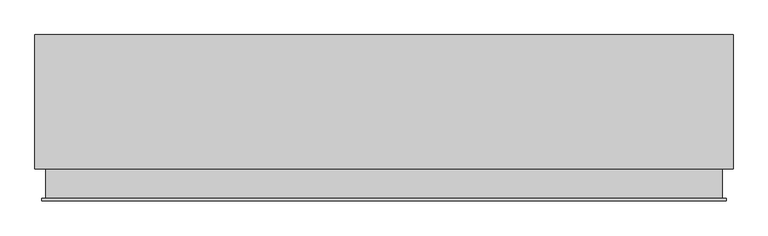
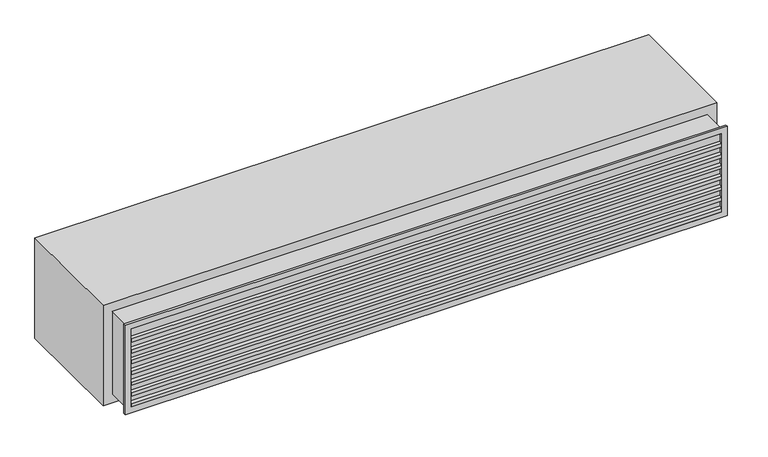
"""IFC4 building model written with IfcOpenShell, lengths in millimetres: air terminal geometry, 020_外気取入ガラリ : 外気取入ガラリ."""

import ifcopenshell
import ifcopenshell.guid

model = None  # the IFC model being written
_history = None  # IfcOwnerHistory: only IFC2X3 demands one
_inside = {}  # id of a spatial element -> (the spatial element, [elements in it])
_under = {}  # id of a project, library or spatial element -> (it, [spatial elements below it])
_declared = {}  # id of a project -> (the project, [libraries it declares])
_typed = {}  # id of a type object -> (the type object, [elements of that type])
_made_of = {}  # id of a material, layer set ... -> (it, [elements and type objects made of it])


def new_model(schema):
    """Start an empty IFC model of exactly this schema.

    Asked for "IFC4X3", IfcOpenShell would pick the latest addendum, in which some entities
    have other attributes; the version numbers below select the first issue.
    IFC2X3 requires an IfcOwnerHistory on every rooted entity: one is made here for all.
    """
    global model, _history
    if schema == "IFC4X3":
        model = ifcopenshell.file(schema_version=(4, 3, 0, 0))
    else:
        model = ifcopenshell.file(schema=schema)
    _inside.clear()
    _under.clear()
    _declared.clear()
    _typed.clear()
    _made_of.clear()
    _history = None
    if model.schema == "IFC2X3":
        org = make("IfcOrganization", Name="unknown")
        user = make(
            "IfcPersonAndOrganization",
            ThePerson=make("IfcPerson", FamilyName="unknown"),
            TheOrganization=org,
        )
        app = make(
            "IfcApplication",
            ApplicationDeveloper=org,
            Version="unknown",
            ApplicationFullName="unknown",
            ApplicationIdentifier="unknown",
        )
        _history = make(
            "IfcOwnerHistory",
            OwningUser=user,
            OwningApplication=app,
            ChangeAction="ADDED",
            CreationDate=0,
        )
    return model


def make(cls, **values):
    """One entity of the class cls with the attributes given. An attribute that is None is left unset."""
    return model.create_entity(
        cls, **{name: value for name, value in values.items() if value is not None}
    )


def rooted(cls, **values):
    """An entity with a GlobalId (a new one), such as an element, a storey or a relation."""
    return make(cls, GlobalId=ifcopenshell.guid.new(), OwnerHistory=_history, **values)


def si_unit(unit_type, name, prefix=None):
    """IfcSIUnit, for example si_unit("LENGTHUNIT", "METRE", prefix="MILLI")."""
    return make("IfcSIUnit", UnitType=unit_type, Prefix=prefix, Name=name)


def assignment(units):
    """IfcUnitAssignment: the units of a project."""
    return None if units is None else make("IfcUnitAssignment", Units=units)


def point(xyz):
    """IfcCartesianPoint."""
    return None if xyz is None else make("IfcCartesianPoint", Coordinates=xyz)


def direction(xyz):
    """IfcDirection."""
    return None if xyz is None else make("IfcDirection", DirectionRatios=xyz)


def frame(location, z_axis=None, x_axis=None):
    """IfcAxis2Placement3D, a coordinate frame: its origin and axes. An axis left out is left unset."""
    return make(
        "IfcAxis2Placement3D",
        Location=point(location),
        Axis=direction(z_axis),
        RefDirection=direction(x_axis),
    )


def origin():
    """The frame at (0, 0, 0) with its axes left unset."""
    return frame((0.0, 0.0, 0.0))


def place(relative_to, where):
    """IfcLocalPlacement: puts the frame where relative to a parent placement (None: the world)."""
    return make(
        "IfcLocalPlacement", PlacementRelTo=relative_to, RelativePlacement=where
    )


def context(
    kind, dimensions, precision=None, world=None, true_north=None, identifier=None
):
    """IfcGeometricRepresentationContext, for example the 3D "Model" context."""
    return make(
        "IfcGeometricRepresentationContext",
        ContextIdentifier=identifier,
        ContextType=kind,
        CoordinateSpaceDimension=dimensions,
        Precision=precision,
        WorldCoordinateSystem=world,
        TrueNorth=true_north,
    )


def project(units=None, contexts=None):
    """IfcProject with its units and contexts."""
    return rooted(
        "IfcProject",
        Name="project",
        RepresentationContexts=contexts,
        UnitsInContext=assignment(units),
    )


def spatial(cls, under=None, at=None, **own):
    """A site, building, storey or space (cls), placed at a placement, below another one or the project."""
    s = rooted(cls, ObjectPlacement=at, **own)
    if under is not None:
        _under.setdefault(under.id(), (under, []))[1].append(s)
    return s


def polyline(points):
    """IfcPolyline through the points."""
    return make("IfcPolyline", Points=[point(p) for p in points])


def outline(outer, holes=None, kind="AREA"):
    """IfcArbitraryClosedProfileDef: a profile drawn as a closed curve; with holes, ...WithVoids."""
    if holes is None:
        return make("IfcArbitraryClosedProfileDef", ProfileType=kind, OuterCurve=outer)
    return make(
        "IfcArbitraryProfileDefWithVoids",
        ProfileType=kind,
        OuterCurve=outer,
        InnerCurves=holes,
    )


def extrude(swept, where, along, depth):
    """IfcExtrudedAreaSolid: the profile swept, set in the frame where, extruded along a direction by depth."""
    return make(
        "IfcExtrudedAreaSolid",
        SweptArea=swept,
        Position=where,
        ExtrudedDirection=direction(along),
        Depth=depth,
    )


def faces_of(points, faces, orient=None, outer=None):
    """IfcFace entities. A face is a list of loops; a loop is a list of indices into points, from 0.

    orient and outer hold one flag for each loop. By default every Orientation is true, the
    first loop of a face is its IfcFaceOuterBound and the others are IfcFaceBound.
    """
    made = []
    for i, loops in enumerate(faces):
        bounds = []
        for j, loop in enumerate(loops):
            is_outer = j == 0 if outer is None else outer[i][j]
            bounds.append(
                make(
                    "IfcFaceOuterBound" if is_outer else "IfcFaceBound",
                    Bound=make("IfcPolyLoop", Polygon=[points[k] for k in loop]),
                    Orientation=True if orient is None else orient[i][j],
                )
            )
        made.append(make("IfcFace", Bounds=bounds))
    return made


def faceted_brep(points, faces, orient=None, outer=None, voids=None):
    """IfcFacetedBrep: a solid bounded by flat faces; with voids (closed shells), ...WithVoids."""
    shared = [point(p) for p in points]
    hull = make("IfcClosedShell", CfsFaces=faces_of(shared, faces, orient, outer))
    if voids is None:
        return make("IfcFacetedBrep", Outer=hull)
    return make(
        "IfcFacetedBrepWithVoids",
        Outer=hull,
        Voids=[
            make(cls, CfsFaces=faces_of(shared, fs, o, b)) for cls, fs, o, b in voids
        ],
    )


def shape(context_of_items, identifier, shape_type, items):
    """IfcShapeRepresentation: the items that make up one representation, for example the "Body"."""
    return make(
        "IfcShapeRepresentation",
        ContextOfItems=context_of_items,
        RepresentationIdentifier=identifier,
        RepresentationType=shape_type,
        Items=items,
    )


def source(mapping_origin, context_of_items, identifier, shape_type, items):
    """IfcRepresentationMap: a shape defined once, which mapped items show again and again."""
    return make(
        "IfcRepresentationMap",
        MappingOrigin=mapping_origin,
        MappedRepresentation=shape(context_of_items, identifier, shape_type, items),
    )


def transform(
    local_origin,
    x_axis=None,
    y_axis=None,
    z_axis=None,
    scale=None,
    scale2=None,
    scale3=None,
    uniform=True,
):
    """IfcCartesianTransformationOperator3D, or its non-uniform kind. x_axis, y_axis, z_axis: its Axis1, 2, 3."""
    if uniform:
        return make(
            "IfcCartesianTransformationOperator3D",
            Axis1=direction(x_axis),
            Axis2=direction(y_axis),
            LocalOrigin=point(local_origin),
            Scale=scale,
            Axis3=direction(z_axis),
        )
    return make(
        "IfcCartesianTransformationOperator3DnonUniform",
        Axis1=direction(x_axis),
        Axis2=direction(y_axis),
        LocalOrigin=point(local_origin),
        Scale=scale,
        Axis3=direction(z_axis),
        Scale2=scale2,
        Scale3=scale3,
    )


def mapped(mapping_source, mapping_target):
    """IfcMappedItem: shows the shape of a source again, moved by a transform."""
    return make(
        "IfcMappedItem", MappingSource=mapping_source, MappingTarget=mapping_target
    )


def made_of(thing, what):
    """Note that an element or type object is made of a material, layer set ...; save() writes the relation."""
    if what is not None:
        _made_of.setdefault(what.id(), (what, []))[1].append(thing)
    return thing


def element(
    cls,
    number,
    at=None,
    inside=None,
    cuts=None,
    type_object=None,
    material=None,
    context=None,
    identifier="Body",
    shape_type=None,
    held_by="IfcProductDefinitionShape",
    body=None,
    shapes=None,
    **own,
):
    """One element of the class cls, such as IfcWall. Its Tag is "e" and its number.

    at: its placement. inside: the storey or other place that contains it. cuts: it is an
    opening in that element (IfcRelVoidsElement). A single representation is given by context,
    identifier, shape_type and body (its items); several are given by shapes. held_by: the class
    of the entity that holds the representations. save() writes the other relations.
    """
    e = rooted(cls, Tag="e%d" % number, ObjectPlacement=at, **own)
    if body is not None:
        shapes = [shape(context, identifier, shape_type, body)]
    if shapes is not None:
        e.Representation = make(held_by, Representations=shapes)
    if inside is not None:
        _inside.setdefault(inside.id(), (inside, []))[1].append(e)
    if cuts is not None:
        rooted(
            "IfcRelVoidsElement", RelatingBuildingElement=cuts, RelatedOpeningElement=e
        )
    if type_object is not None:
        _typed.setdefault(type_object.id(), (type_object, []))[1].append(e)
    return made_of(e, material)


def aggregate(whole, parts):
    """IfcRelAggregates: a whole, such as a stair, and the parts it consists of."""
    return rooted("IfcRelAggregates", RelatingObject=whole, RelatedObjects=parts)


def save(model, path):
    """Write the relations noted so far, then the file.

    IfcRelAggregates (storeys below a building ...), IfcRelContainedInSpatialStructure (elements
    in a storey), IfcRelDefinesByType, IfcRelAssociatesMaterial and IfcRelDeclares: one each for
    every whole, place, type object, material and project.
    """
    for whole, parts in _under.values():
        aggregate(whole, parts)
    for where, things in _inside.values():
        rooted(
            "IfcRelContainedInSpatialStructure",
            RelatedElements=things,
            RelatingStructure=where,
        )
    for kind, things in _typed.values():
        rooted("IfcRelDefinesByType", RelatedObjects=things, RelatingType=kind)
    for what, things in _made_of.values():
        rooted("IfcRelAssociatesMaterial", RelatedObjects=things, RelatingMaterial=what)
    for by, libraries in _declared.values():
        rooted("IfcRelDeclares", RelatingContext=by, RelatedDefinitions=libraries)
    model.write(path)


def air_terminal_fc55d6d7(model_context):
    return source(origin(), model_context, "Body", "SolidModel", [
        extrude(outline(polyline([(48.0, 126.6666667), (50.0, 126.6666667), (50.0, 110.4494491), (-8.0, 80.4494491), (-8.0, 66.6666667), (-10.0, 66.6666667), (-10.0, 81.6666667), (48.0, 111.6666667), (48.0, 126.6666667)])), frame((-1250.0, 0.0, 0.0), z_axis=(1.0, 0.0, 0.0), x_axis=(0.0, 1.0, 0.0)), (0.0, 0.0, 1.0), 2500.0),
        extrude(outline(polyline([(48.0, 78.3333333), (50.0, 78.3333333), (50.0, 62.1161157), (-8.0, 32.1161157), (-8.0, 18.3333333), (-10.0, 18.3333333), (-10.0, 33.3333333), (48.0, 63.3333333), (48.0, 78.3333333)])), frame((-1250.0, 0.0, 0.0), z_axis=(1.0, 0.0, 0.0), x_axis=(0.0, 1.0, 0.0)), (0.0, 0.0, 1.0), 2500.0),
        extrude(outline(polyline([(48.0, 30.0), (50.0, 30.0), (50.0, 13.7827824), (-8.0, -16.2172176), (-8.0, -30.0), (-10.0, -30.0), (-10.0, -15.0), (48.0, 15.0), (48.0, 30.0)])), frame((-1250.0, 0.0, 0.0), z_axis=(1.0, 0.0, 0.0), x_axis=(0.0, 1.0, 0.0)), (0.0, 0.0, 1.0), 2500.0),
        extrude(outline(polyline([(48.0, -18.3333333), (50.0, -18.3333333), (50.0, -34.5505509), (-8.0, -64.5505509), (-8.0, -78.3333333), (-10.0, -78.3333333), (-10.0, -63.3333333), (48.0, -33.3333333), (48.0, -18.3333333)])), frame((-1250.0, 0.0, 0.0), z_axis=(1.0, 0.0, 0.0), x_axis=(0.0, 1.0, 0.0)), (0.0, 0.0, 1.0), 2500.0),
        extrude(outline(polyline([(48.0, -66.6666667), (50.0, -66.6666667), (50.0, -82.8838843), (-8.0, -112.8838843), (-8.0, -126.6666667), (-10.0, -126.6666667), (-10.0, -111.6666667), (48.0, -81.6666667), (48.0, -66.6666667)])), frame((-1250.0, 0.0, 0.0), z_axis=(1.0, 0.0, 0.0), x_axis=(0.0, 1.0, 0.0)), (0.0, 0.0, 1.0), 2500.0),
        extrude(outline(polyline([(48.0, 175.0), (50.0, 175.0), (50.0, 158.7827824), (-8.0, 128.7827824), (-8.0, 115.0), (-10.0, 115.0), (-10.0, 130.0), (48.0, 160.0), (48.0, 175.0)])), frame((-1250.0, 0.0, 0.0), z_axis=(1.0, 0.0, 0.0), x_axis=(0.0, 1.0, 0.0)), (0.0, 0.0, 1.0), 2500.0),
        extrude(outline(polyline([(48.0, -115.0), (50.0, -115.0), (50.0, -131.2172176), (-8.0, -161.2172176), (-8.0, -175.0), (-10.0, -175.0), (-10.0, -160.0), (48.0, -130.0), (48.0, -115.0)])), frame((-1250.0, 0.0, 0.0), z_axis=(1.0, 0.0, 0.0), x_axis=(0.0, 1.0, 0.0)), (0.0, 0.0, 1.0), 2500.0),
        faceted_brep([(1250.0, -10.0, 175.0), (1250.0, 110.0, 175.0), (1250.0, 110.0, -175.0), (1250.0, -10.0, -175.0), (1275.0, 0.0, 200.0), (1275.0, -10.0, 200.0), (1275.0, -10.0, -200.0), (1275.0, 0.0, -200.0), (1260.0, 110.0, 185.0), (1260.0, 0.0, 185.0), (1260.0, 0.0, -185.0), (1260.0, 110.0, -185.0), (-1250.0, 110.0, -175.0), (-1250.0, -10.0, -175.0), (-1275.0, -10.0, -200.0), (-1275.0, 0.0, -200.0), (-1260.0, 0.0, -185.0), (-1260.0, 110.0, -185.0), (-1250.0, 110.0, 175.0), (-1250.0, -10.0, 175.0), (-1275.0, -10.0, 200.0), (-1275.0, 0.0, 200.0), (-1260.0, 0.0, 185.0), (-1260.0, 110.0, 185.0)], [[[0, 1, 2, 3]], [[4, 5, 6, 7]], [[8, 9, 10, 11]], [[3, 2, 12, 13]], [[7, 6, 14, 15]], [[11, 10, 16, 17]], [[13, 12, 18, 19]], [[15, 14, 20, 21]], [[17, 16, 22, 23]], [[19, 18, 1, 0]], [[5, 20, 14, 6], [3, 13, 19, 0]], [[21, 20, 5, 4]], [[7, 15, 21, 4], [9, 22, 16, 10]], [[23, 22, 9, 8]], [[11, 17, 23, 8], [1, 18, 12, 2]]]),
        extrude(outline(polyline([(1250.0, 0.0), (-1250.0, 0.0), (-1250.0, 10.0), (1250.0, 10.0), (1250.0, 0.0)])), frame((0.0, 0.0, -175.0), z_axis=(0.0, 0.0, 1.0), x_axis=(1.0, 0.0, 0.0)), (0.0, 0.0, 1.0), 350.0),
        extrude(outline(polyline([(1300.0, 110.0), (-1300.0, 110.0), (-1300.0, 610.0), (1300.0, 610.0), (1300.0, 110.0)])), frame((0.0, 0.0, -225.0), z_axis=(0.0, 0.0, 1.0), x_axis=(1.0, 0.0, 0.0)), (0.0, 0.0, 1.0), 450.0),
    ])


if __name__ == "__main__":
    model = new_model("IFC4")
    model_context = context("Model", 3, world=origin())
    ifc_project = project(units=[si_unit("LENGTHUNIT", "METRE", prefix="MILLI")], contexts=[model_context])
    site = spatial("IfcSite", under=ifc_project)
    building = spatial("IfcBuilding", under=site)
    placement = place(None, origin())
    air_terminal_shape = air_terminal_fc55d6d7(model_context)
    element("IfcAirTerminal", 1, ObjectType="020_外気取入ガラリ : 外気取入ガラリ", at=placement, inside=building, context=model_context, shape_type="MappedRepresentation", body=[
        mapped(air_terminal_shape, transform((0.0, 0.0, 0.0), x_axis=(1.0, 0.0, 0.0), y_axis=(0.0, 1.0, 0.0), z_axis=(0.0, 0.0, 1.0))),
    ])
    save(model, "model.ifc")
